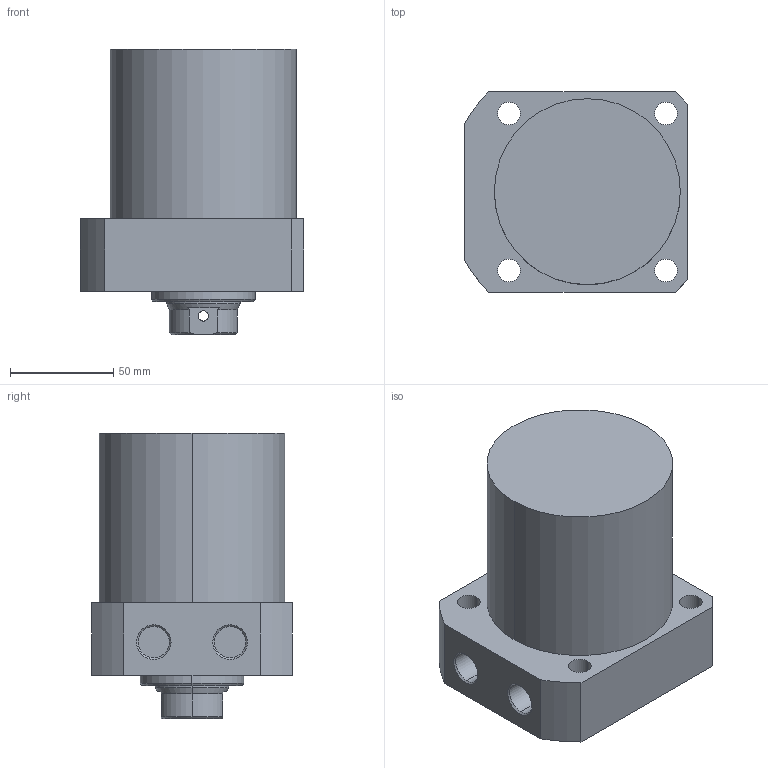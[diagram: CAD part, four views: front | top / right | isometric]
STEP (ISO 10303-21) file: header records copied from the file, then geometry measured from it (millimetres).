
FILE_DESCRIPTION (( 'STEP AP203' ), '1' );
FILE_NAME ('CLLR-090CB-060.STEP', '2019-12-19T02:33:08', ( '' ), ( '' ), 'SwSTEP 2.0', 'SolidWorks 2015', '' );
FILE_SCHEMA (( 'CONFIG_CONTROL_DESIGN' ));
Length unit declared in the file: millimetre
Products named in the file (1): CLLR-090CB-060
Bounding box: 108 x 97 x 138 mm (x, y, z)
Volume: 871675.6 mm3; surface area: 68370.6 mm2
Topology: 1 solids, 1 shells, 67 faces, 161 edges, 102 vertices
Faces by surface type: cylinder 33, plane 19, cone 15
Entity records: 2179 total; most frequent: CARTESIAN_POINT 477, DIRECTION 360, ORIENTED_EDGE 318, EDGE_CURVE 159, AXIS2_PLACEMENT_3D 145, VERTEX_POINT 102, EDGE_LOOP 87, CIRCLE 77
